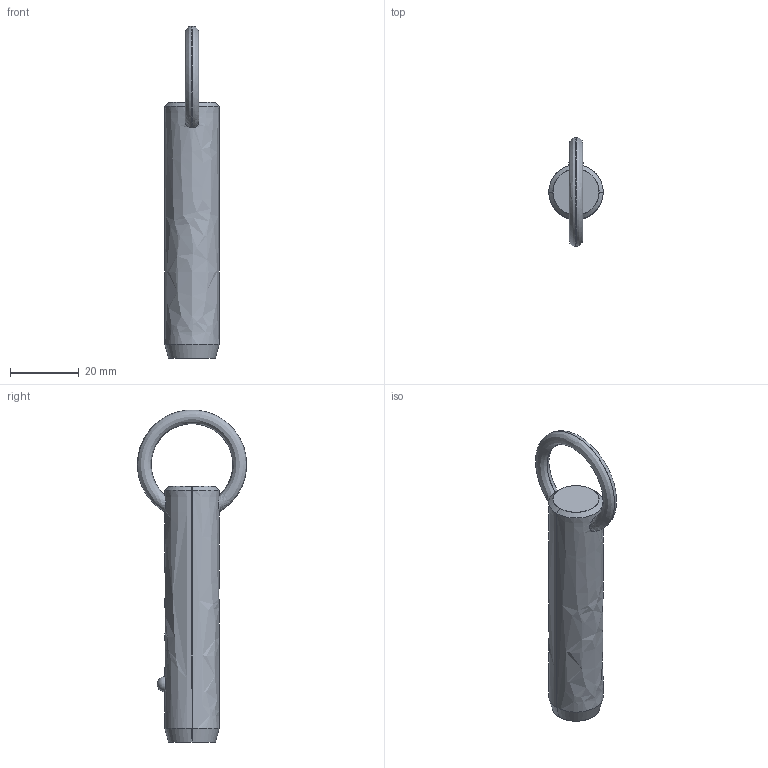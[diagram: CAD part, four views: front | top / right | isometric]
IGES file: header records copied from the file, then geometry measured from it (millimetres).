
Start section: SolidWorks IGES file using analytic representation for surfaces
Global section: file name: C:\Users\liam_\OneDrive\Documents\WORK\Work for WixRoyd\Job Files\J-00019 - Matt Davis CAD Checking\04. CAD Drawings\automotion20190605\P1250.2_v2\P1250.2_v2_20190729_IGES\P1250.062-180.igs; native system: SolidWorks 2017; preprocessor: SolidWorks 2017; author: liam_; date: 190729.233134; units: millimetre
Bounding box: 15.8 x 31.7 x 96.39 mm (x, y, z)
Surface area: 4856.9 mm2 (no closed solid volume)
Topology: 0 solids, 0 shells, 12 faces, 292 edges, 290 vertices
Faces by surface type: revolution 8, bspline 4
